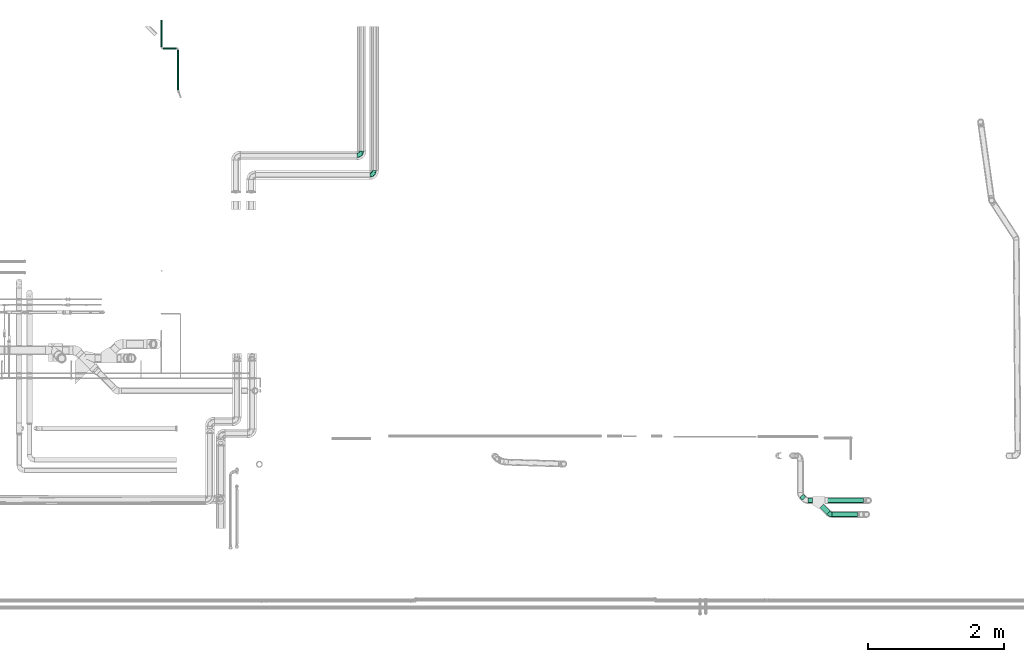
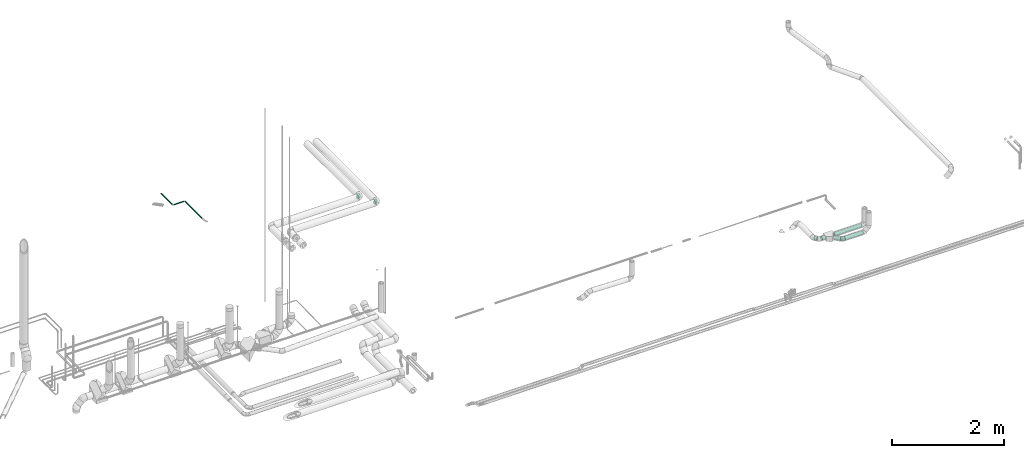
# One storey, part 72 of 156: 8 flow segments, 3 flow fittings.
"""IFC2X3 building model written with IfcOpenShell, lengths in millimetres."""

from ifc_helpers import new_model, entity, si_unit, converted_unit, derived_unit, direction, frame, origin_with_axes, origin_2d_with_axis, place, context, subcontext, project, spatial, hollow_circle, extrude, open_shell, surface_model, source, transform, mapped, type_object, element, save


model = new_model("IFC2X3")

# Units and contexts
model_context = context("Model", 3, precision=0.01, world=frame((0.0, 4.29681676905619e-09, 0.0)), true_north=direction((4.01073788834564e-13, 1.0)))
plan_context = context("Plan", 3, precision=0.01, world=frame((0.0, 4.29681676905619e-09, 0.0)), true_north=direction((4.01073788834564e-13, 1.0)))
body_context = subcontext(model_context, "Body", "Model", "MODEL_VIEW")
ifc_project = project(units=[converted_unit("PLANEANGLEUNIT", "DEGREE", entity("IfcPositiveLengthMeasure", 0.0174532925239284), si_unit("PLANEANGLEUNIT", "RADIAN"), dimensions=[0, 0, 0, 0, 0, 0, 0]), si_unit("AREAUNIT", "SQUARE_METRE"), si_unit("LENGTHUNIT", "METRE", prefix="MILLI"), si_unit("MASSUNIT", "GRAM", prefix="KILO"), si_unit("POWERUNIT", "WATT"), si_unit("PRESSUREUNIT", "PASCAL", prefix="KILO"), si_unit("FORCEUNIT", "NEWTON", prefix="KILO"), si_unit("ELECTRICVOLTAGEUNIT", "VOLT"), si_unit("ELECTRICCURRENTUNIT", "AMPERE"), si_unit("THERMODYNAMICTEMPERATUREUNIT", "DEGREE_CELSIUS"), si_unit("TIMEUNIT", "SECOND"), si_unit("VOLUMEUNIT", "CUBIC_METRE"), derived_unit("LINEARVELOCITYUNIT", [(si_unit("LENGTHUNIT", "METRE"), 1), (si_unit("TIMEUNIT", "SECOND"), -1)]), derived_unit("VOLUMETRICFLOWRATEUNIT", [(si_unit("VOLUMEUNIT", "CUBIC_METRE"), 1), (si_unit("TIMEUNIT", "SECOND"), -1)]), derived_unit("THERMALTRANSMITTANCEUNIT", [(si_unit("POWERUNIT", "WATT"), 1), (si_unit("THERMODYNAMICTEMPERATUREUNIT", "KELVIN"), -1), (si_unit("AREAUNIT", "SQUARE_METRE"), -1)]), derived_unit("SOUNDPRESSUREUNIT", [(si_unit("PRESSUREUNIT", "PASCAL"), 1)])], contexts=[model_context, plan_context])

# Site, building, storey
site_placement = place(None, frame((0.0, -4.29681676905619e-09, 0.0), z_axis=(0.0, 0.0, 1.0), x_axis=(1.0, 0.0, 0.0)))
site = spatial("IfcSite", under=ifc_project, at=site_placement, CompositionType="ELEMENT")
building_placement = place(site_placement, frame((0.0, 4.29681676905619e-09, 0.0), z_axis=(0.0, 0.0, 1.0), x_axis=(1.0, 0.0, 0.0)))
building = spatial("IfcBuilding", under=site, at=building_placement, Name="mc-building", CompositionType="ELEMENT")
storey_placement = place(building_placement, frame((0.0, 0.0, 205200.0), z_axis=(0.0, 0.0, 1.0), x_axis=(1.0, 0.0, 0.0)))
storey = spatial("IfcBuildingStorey", under=building, at=storey_placement, Name="Nivå D + 1,2 m", CompositionType="ELEMENT", Elevation=205200.0)

# Flow fittings
pipe_fitting_type = type_object("IfcPipeFittingType", Name="magi_pipe_elbow_short_001", PredefinedType="BEND")
shared_shape_1 = source(origin_with_axes(), body_context, "Body", "SurfaceModel", [
    surface_model("IfcShellBasedSurfaceModel", [(-65.0, 16.25, -28.14582), (-65.0, 8.41162, -31.39259), (-65.0, 0.0, -32.5), (-65.0, 22.98097, -22.98097), (-65.0, 31.39259, -8.41162), (-65.0, 28.14582, -16.25), (-65.0, -22.98097, -22.98097), (-65.0, -32.5, 0.0), (-65.0, -16.25, -28.14582), (-65.0, -8.41162, -31.39259), (-65.0, -31.39259, -8.41162), (-65.0, -28.14582, -16.25), (-65.0, 28.14582, 16.25), (-65.0, 31.39259, 8.41162), (-65.0, 16.25, 28.14582), (-65.0, -16.25, 28.14582), (-65.0, 22.98097, 22.98097), (-65.0, 8.41162, 31.39259), (-65.0, 0.0, 32.5), (-65.0, -28.14582, 16.25), (-65.0, -22.98097, 22.98097), (-65.0, -31.39259, 8.41162), (-65.0, -8.41162, 31.39259), (-65.0, 32.5, 0.0), (0.0, 65.0, -32.5), (-8.41162, 65.0, -31.39259), (-16.25, 65.0, -28.14582), (-22.98097, 65.0, -22.98097), (-28.14582, 65.0, -16.25), (-31.39259, 65.0, -8.41162), (22.98097, 65.0, -22.98097), (32.5, 65.0, 0.0), (8.41162, 65.0, -31.39259), (16.25, 65.0, -28.14582), (28.14582, 65.0, -16.25), (31.39259, 65.0, -8.41162), (22.98097, 65.0, 22.98097), (-31.39259, 65.0, 8.41162), (-16.25, 65.0, 28.14582), (-28.14582, 65.0, 16.25), (16.25, 65.0, 28.14582), (-22.98097, 65.0, 22.98097), (0.0, 65.0, 32.5), (-8.41162, 65.0, 31.39259), (31.39259, 65.0, 8.41162), (28.14582, 65.0, 16.25), (8.41162, 65.0, 31.39259), (-32.5, 65.0, 0.0), (-43.90702, -28.50357, 10.21429), (-47.66599, -25.24708, 18.24329), (-34.87084, -27.72801, 0.0), (-49.01599, -29.96838, 0.0), (-8.32282, -11.22418, 12.53244), (-2.26208, -8.68175, 6.83487), (1.87734, -1.87734, 13.46633), (-49.6496, -4.30536, 31.94417), (-45.51055, 4.98181, 32.4446), (11.10232, 7.93663, 12.20831), (19.84605, 26.44675, 16.1655), (7.61141, 11.79181, 20.74294), (-32.35679, -0.29166, 31.50073), (-47.54175, -12.2622, 29.22881), (-25.24141, -7.67713, 27.1649), (-41.69066, -18.5666, 24.14336), (-29.11978, -24.90981, 6.68628), (-21.28089, -20.80358, 0.0), (-11.79181, -7.61142, 20.74294), (-5.80543, 5.80543, 26.57151), (-31.76895, 51.87177, 14.12563), (-27.14947, 50.59881, 21.35142), (-12.13166, 56.06035, 30.44206), (-4.45426, 48.61541, 32.42017), (-50.09899, 12.74635, 30.7009), (-8.48341, 21.76765, 31.91167), (-16.14859, 5.96219, 30.34845), (-3.32017, 17.55886, 29.86711), (-56.22928, 19.68144, 26.48178), (-11.29526, 31.96047, 32.44169), (-24.07322, 24.07322, 31.71032), (-19.35215, 14.20223, 32.33259), (-51.38141, 34.61729, 7.14563), (-51.88792, 31.7637, 14.12347), (-40.35305, 40.35305, 12.14877), (-50.80511, 27.09273, 21.32871), (18.5666, 41.69066, 24.14336), (-33.7058, 43.08158, 18.39466), (12.2622, 47.54175, 29.22881), (25.24708, 47.66599, 18.24329), (28.50357, 43.90702, 10.21429), (-7.69094, -13.87916, 0.0), (-15.78148, -17.87706, 8.42054), (4.30536, 49.6496, 31.94417), (-35.71343, 13.92127, 31.91839), (-31.89105, 7.96389, 32.48613), (20.80358, 21.28089, 0.0), (24.90981, 29.11978, 6.68628), (17.87706, 15.78148, 8.42054), (29.96838, 49.01599, 0.0), (-34.55128, 22.0521, 30.06059), (-26.44675, -19.84605, 16.1655), (-23.56236, 42.00642, 27.31532), (-19.85518, 54.49722, 26.61661), (-34.21038, 52.42992, 6.97228), (-40.73172, 42.62744, 5.71978), (14.97296, 26.18012, 22.02699), (7.67713, 25.24141, 27.1649), (-36.85418, 48.75, 0.0), (-30.08671, 34.32049, 26.70528), (-44.75398, 22.06156, 27.36835), (-0.49673, 0.49673, 19.20125), (-18.54586, 33.64303, 31.24245), (-25.89232, 31.46486, 29.57131), (-14.05565, 44.0383, 30.95171), (-34.25835, 36.29564, 23.02122), (-41.74137, 34.9217, 18.12276), (0.29166, 32.35679, 31.50073), (-26.05885, -14.24556, 22.66105), (8.86268, 2.36037, 6.4802), (27.72801, 34.87084, 0.0), (13.87916, 7.69094, 0.0), (-48.75, 36.85418, 0.0), (3.09411, -3.09411, 0.0), (-47.92601, 27.98949, -21.64777), (-51.85818, 31.77338, -14.12745), (-26.55091, -8.20204, -27.26679), (-28.22117, -0.4054, -30.91131), (-13.05808, -0.54385, -26.63038), (-51.44999, 4.10942, -32.39422), (-47.41254, -29.09488, -10.59528), (-40.83541, -24.10132, -17.60314), (-31.01128, -24.37143, -10.90365), (-47.28426, 13.26677, -30.81881), (-35.80381, 7.68292, -32.49298), (-27.98949, 47.926, -21.64777), (-52.61518, 34.1021, -7.1115), (-20.39883, 51.02225, -26.88546), (-13.26677, 47.28425, -30.81881), (-41.3544, 41.3544, -7.75963), (19.41673, 47.01902, -24.53799), (11.21609, 41.15804, -28.90474), (12.81249, 54.88919, -29.57871), (-6.33191, -11.43232, -8.55907), (-6.42402, -8.42757, -14.80991), (3.49643, -2.75853, -8.57549), (-18.96438, 17.57366, -32.48155), (-30.80999, 19.23044, -31.53267), (-51.02225, 20.39883, -26.88546), (-54.71682, -25.87182, -18.8826), (-31.61812, 36.9194, -24.4791), (-30.03666, 30.03666, -28.53614), (-39.72338, 27.45383, -25.81957), (2.83418, -0.59734, -13.92945), (-47.01902, -19.41673, -24.53799), (24.10132, 40.83541, -17.60314), (29.09488, 47.41254, -10.59528), (24.37143, 31.01128, -10.90365), (-54.88919, -12.81249, -29.57871), (4.09785, 47.8829, -31.90577), (-20.54613, -15.81902, -17.72957), (-24.2662, -13.25756, -22.73526), (-11.78149, -8.03072, -20.32007), (-35.46896, -14.83968, -25.51841), (-41.15804, -11.21609, -28.90474), (-47.8829, -4.09785, -31.90577), (-24.35359, 39.98269, -27.53072), (-34.1021, 52.61518, -7.1115), (-4.10942, 51.44999, -32.39422), (-11.47328, 11.47328, -30.68873), (0.4054, 28.22117, -30.91131), (1.36819, 15.2666, -27.10351), (-31.77338, 51.85818, -14.12745), (-39.0335, 39.0335, -16.01919), (25.87182, 54.71682, -18.8826), (18.8348, 26.11149, -17.45424), (10.47668, 12.32102, -18.0266), (13.25756, 24.2662, -22.73526), (6.71713, 27.74562, -28.39194), (-7.68292, 35.80381, -32.49298), (-39.5129, 20.9158, -29.29247), (-19.37897, 31.62685, -31.37546), (-0.30809, 0.30809, -18.83153), (-15.05383, -18.17086, -5.59074), (16.66507, 16.14703, -12.10401), (18.17086, 15.05383, -5.59074), (3.82878, 9.90613, -22.79737), (-16.14703, -16.66507, -12.10401)], [open_shell([[[0, 1, 2]], [[3, 0, 2]], [[4, 5, 3]], [[6, 3, 2]], [[4, 3, 7]], [[8, 6, 9]], [[6, 2, 9]], [[10, 7, 11]], [[6, 11, 7]], [[6, 7, 3]], [[7, 12, 4]], [[4, 12, 13]], [[14, 12, 7]], [[15, 14, 7]], [[16, 12, 14]], [[17, 14, 18]], [[19, 20, 21]], [[21, 20, 7]], [[22, 18, 15]], [[15, 7, 20]], [[14, 15, 18]], [[4, 13, 23]], [[24, 25, 26]], [[24, 26, 27]], [[27, 28, 29]], [[24, 27, 30]], [[31, 27, 29]], [[32, 30, 33]], [[32, 24, 30]], [[34, 31, 35]], [[31, 34, 30]], [[27, 31, 30]], [[29, 36, 31]], [[36, 29, 37]], [[38, 37, 39]], [[40, 37, 38]], [[38, 39, 41]], [[42, 38, 43]], [[44, 36, 45]], [[31, 36, 44]], [[40, 42, 46]], [[40, 36, 37]], [[42, 40, 38]], [[29, 47, 37]], [[48, 49, 19]], [[50, 48, 51]], [[52, 53, 54]], [[21, 48, 19]], [[21, 51, 48]], [[18, 55, 56]], [[19, 49, 20]], [[57, 58, 59]], [[60, 61, 62]], [[63, 15, 20]], [[63, 61, 15]], [[64, 50, 65]], [[62, 66, 67]], [[39, 68, 69]], [[43, 70, 71]], [[17, 72, 14]], [[73, 74, 75]], [[14, 76, 16]], [[22, 55, 18]], [[77, 78, 79]], [[80, 81, 82]], [[12, 83, 81]], [[84, 36, 40]], [[23, 13, 80]], [[13, 12, 81]], [[68, 85, 69]], [[83, 12, 16]], [[18, 56, 17]], [[40, 86, 84]], [[16, 76, 83]], [[87, 58, 88]], [[39, 37, 68]], [[89, 90, 65]], [[42, 91, 46]], [[65, 90, 64]], [[42, 43, 71]], [[92, 93, 79]], [[88, 44, 45]], [[45, 36, 87]], [[87, 88, 45]], [[94, 95, 96]], [[88, 97, 44]], [[98, 72, 92]], [[49, 99, 63]], [[69, 100, 101]], [[82, 102, 103]], [[104, 105, 59]], [[106, 102, 47]], [[98, 107, 108]], [[102, 82, 68]], [[86, 40, 46]], [[69, 41, 39]], [[109, 54, 57]], [[110, 100, 111]], [[15, 61, 22]], [[101, 38, 41]], [[70, 43, 38]], [[112, 77, 71]], [[84, 86, 105]], [[96, 95, 58]], [[100, 69, 113]], [[72, 17, 56]], [[108, 113, 83]], [[81, 114, 82]], [[112, 110, 77]], [[91, 71, 115]], [[62, 61, 63]], [[55, 61, 60]], [[116, 99, 66]], [[74, 62, 67]], [[91, 86, 46]], [[105, 86, 115]], [[75, 105, 115]], [[109, 67, 66]], [[59, 105, 67]], [[48, 64, 99]], [[99, 49, 48]], [[63, 20, 49]], [[36, 84, 87]], [[58, 87, 84]], [[92, 72, 56]], [[76, 72, 108]], [[102, 68, 37]], [[82, 114, 85]], [[98, 111, 107]], [[112, 70, 101]], [[114, 83, 113]], [[82, 103, 80]], [[92, 79, 78]], [[115, 71, 77]], [[74, 79, 60]], [[77, 79, 73]], [[71, 91, 42]], [[86, 91, 115]], [[61, 55, 22]], [[56, 55, 60]], [[57, 54, 117]], [[104, 59, 58]], [[116, 66, 62]], [[52, 99, 90]], [[21, 7, 51]], [[97, 88, 118]], [[97, 31, 44]], [[53, 90, 89]], [[90, 53, 52]], [[94, 96, 119]], [[88, 95, 118]], [[117, 54, 53]], [[92, 56, 93]], [[98, 92, 78]], [[111, 98, 78]], [[72, 98, 108]], [[110, 111, 78]], [[107, 111, 100]], [[47, 102, 37]], [[102, 106, 103]], [[106, 120, 103]], [[103, 120, 80]], [[23, 80, 120]], [[13, 81, 80]], [[56, 60, 93]], [[60, 79, 93]], [[117, 121, 119]], [[121, 117, 53]], [[53, 89, 121]], [[119, 96, 117]], [[117, 96, 57]], [[77, 110, 78]], [[100, 110, 112]], [[83, 114, 81]], [[85, 114, 113]], [[69, 85, 113]], [[82, 85, 68]], [[109, 52, 54]], [[99, 52, 66]], [[69, 101, 41]], [[112, 101, 100]], [[100, 113, 107]], [[108, 107, 113]], [[62, 74, 60]], [[75, 74, 67]], [[105, 75, 67]], [[73, 75, 115]], [[77, 73, 115]], [[74, 73, 79]], [[99, 64, 90]], [[50, 64, 48]], [[118, 95, 94]], [[58, 95, 88]], [[58, 57, 96]], [[109, 57, 59]], [[72, 76, 14]], [[83, 76, 108]], [[101, 70, 38]], [[71, 70, 112]], [[58, 84, 104]], [[105, 104, 84]], [[67, 109, 59]], [[52, 109, 66]], [[62, 63, 116]], [[99, 116, 63]], [[122, 5, 123]], [[124, 125, 126]], [[2, 1, 127]], [[128, 129, 130]], [[127, 131, 132]], [[28, 27, 133]], [[120, 134, 23]], [[135, 26, 136]], [[123, 134, 137]], [[138, 139, 140]], [[122, 3, 5]], [[141, 142, 143]], [[144, 132, 145]], [[131, 0, 146]], [[128, 11, 147]], [[148, 149, 150]], [[128, 51, 10]], [[142, 151, 143]], [[152, 6, 8]], [[153, 154, 155]], [[156, 152, 8]], [[32, 157, 24]], [[158, 159, 160]], [[147, 11, 6]], [[129, 152, 161]], [[156, 8, 9]], [[162, 163, 125]], [[154, 34, 35]], [[120, 106, 137]], [[149, 148, 164]], [[47, 29, 165]], [[163, 9, 2]], [[5, 4, 123]], [[25, 166, 136]], [[167, 168, 169]], [[170, 133, 171]], [[25, 24, 166]], [[33, 30, 138]], [[157, 32, 140]], [[29, 28, 170]], [[30, 34, 172]], [[26, 135, 27]], [[132, 131, 145]], [[32, 33, 140]], [[173, 174, 175]], [[169, 168, 176]], [[25, 136, 26]], [[175, 138, 173]], [[168, 177, 157]], [[163, 162, 156]], [[153, 172, 154]], [[11, 128, 10]], [[154, 97, 118]], [[131, 178, 145]], [[0, 3, 146]], [[175, 139, 138]], [[155, 118, 94]], [[131, 1, 0]], [[146, 178, 131]], [[170, 137, 165]], [[149, 179, 145]], [[171, 133, 148]], [[160, 180, 142]], [[65, 181, 89]], [[170, 165, 29]], [[137, 171, 123]], [[172, 138, 30]], [[138, 153, 173]], [[168, 157, 139]], [[166, 157, 177]], [[176, 175, 169]], [[168, 167, 144]], [[154, 35, 97]], [[155, 182, 173]], [[162, 124, 161]], [[147, 152, 129]], [[127, 163, 2]], [[132, 144, 125]], [[132, 125, 163]], [[125, 167, 126]], [[129, 158, 130]], [[35, 31, 97]], [[143, 182, 183]], [[169, 126, 167]], [[3, 122, 146]], [[178, 150, 149]], [[136, 179, 164]], [[133, 27, 135]], [[123, 4, 134]], [[122, 123, 171]], [[133, 170, 28]], [[137, 170, 171]], [[184, 175, 174]], [[180, 160, 126]], [[126, 169, 184]], [[126, 159, 124]], [[51, 128, 50]], [[51, 7, 10]], [[131, 127, 1]], [[163, 127, 132]], [[157, 166, 24]], [[136, 166, 177]], [[164, 179, 149]], [[144, 167, 125]], [[179, 144, 145]], [[168, 144, 177]], [[136, 177, 179]], [[144, 179, 177]], [[141, 121, 89]], [[89, 181, 141]], [[154, 118, 155]], [[183, 155, 94]], [[143, 183, 119]], [[119, 183, 94]], [[155, 183, 182]], [[181, 130, 185]], [[50, 128, 130]], [[130, 181, 65]], [[50, 130, 65]], [[141, 181, 185]], [[142, 141, 185]], [[143, 121, 141]], [[158, 160, 142]], [[142, 180, 151]], [[158, 142, 185]], [[126, 160, 159]], [[130, 158, 185]], [[129, 159, 158]], [[23, 134, 4]], [[120, 137, 134]], [[137, 106, 165]], [[47, 165, 106]], [[174, 151, 180]], [[182, 143, 151]], [[150, 146, 122]], [[149, 145, 178]], [[146, 150, 178]], [[122, 171, 148]], [[148, 150, 122]], [[164, 133, 135]], [[133, 164, 148]], [[164, 135, 136]], [[138, 140, 33]], [[157, 140, 139]], [[154, 172, 34]], [[138, 172, 153]], [[163, 156, 9]], [[152, 156, 162]], [[152, 147, 6]], [[128, 147, 129]], [[155, 173, 153]], [[174, 173, 182]], [[151, 174, 182]], [[174, 180, 184]], [[126, 184, 180]], [[175, 184, 169]], [[168, 139, 176]], [[175, 176, 139]], [[161, 124, 159]], [[125, 124, 162]], [[129, 161, 159]], [[162, 161, 152]], [[143, 119, 121]]])]),
])
for number, where, z_axis, x_axis, name in (
    (1, (331935.29993, 465599.02228, 4232.15388999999), (0.0, 0.0, 1.0), (1.0, 0.0, 0.0), "magi_pipe_elbow_short_001"),
    (2, (332120.29993, 465309.02229, 4224.29453000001), (0.0, 0.0, 1.0), (1.0, 0.0, 0.0), "magi_pipe_elbow_short_001"),
):
    element("IfcFlowFitting", number, at=place(storey_placement, frame(where, z_axis=z_axis, x_axis=x_axis)), inside=storey, type_object=pipe_fitting_type, Name=name, context=body_context, shape_type="MappedRepresentation", body=[
        mapped(shared_shape_1, transform((0.0, 0.0, 0.0), scale=1.0)),
    ])
shared_shape_2 = source(origin_with_axes(), body_context, "Body", "SurfaceModel", [
    surface_model("IfcShellBasedSurfaceModel", [(-31.06602, 18.75, -32.47595), (-31.06602, 9.70571, -36.22222), (-31.06602, 0.0, -37.5), (-31.06602, 26.5165, -26.5165), (-31.06602, 36.22222, -9.70571), (-31.06602, 32.47595, -18.75), (-31.06602, -26.5165, -26.5165), (-31.06602, -32.47595, -18.75), (-31.06602, -18.75, -32.47595), (-31.06602, -9.70571, -36.22222), (-31.06602, -36.22222, -9.70571), (-31.06602, -37.5, 0.0), (-31.06602, -36.22222, 9.70571), (-31.06602, 36.22222, 9.70571), (-31.06602, 37.5, 0.0), (-31.06602, 26.5165, 26.5165), (-31.06602, 32.47595, 18.75), (-31.06602, 9.70571, 36.22222), (-31.06602, 18.75, 32.47595), (-31.06602, 0.0, 37.5), (-31.06602, -32.47595, 18.75), (-31.06602, -26.5165, 26.5165), (-31.06602, -18.75, 32.47595), (-31.06602, -9.70571, 36.22222), (21.96699, 21.96699, -37.5), (15.10402, 28.82997, -36.22222), (8.70874, 35.22524, -32.47595), (3.21699, 40.71699, -26.5165), (-0.99697, 44.93096, -18.75), (-3.64599, 47.57997, -9.70571), (40.71699, 3.21699, -26.5165), (47.57997, -3.64599, 9.70571), (35.22524, 8.70874, -32.47595), (28.82997, 15.10402, -36.22222), (44.93096, -0.99697, -18.75), (47.57997, -3.64599, -9.70571), (48.4835, -4.54951, 0.0), (-4.54951, 48.4835, 0.0), (3.21699, 40.71699, 26.5165), (-3.64599, 47.57997, 9.70571), (-0.99697, 44.93096, 18.75), (8.70874, 35.22524, 32.47595), (15.10402, 28.82997, 36.22222), (21.96699, 21.96699, 37.5), (40.71699, 3.21699, 26.5165), (44.93096, -0.99697, 18.75), (35.22524, 8.70874, 32.47595), (28.82997, 15.10402, 36.22222), (9.55102, -23.0582, 20.89761), (-8.29629, -21.19414, 28.93647), (-12.1092, -28.6804, 21.95769), (-12.52947, -35.05962, 0.0), (-1.94887, -33.66666, 0.0), (-8.00413, -34.54807, 6.40349), (28.8426, -11.7176, 21.95769), (-14.85891, -13.75094, 34.27307), (3.85041, -9.29571, 33.80058), (1.11309, 22.54421, 35.00091), (6.77913, 17.75082, 36.95457), (-11.19207, -3.61059, 37.00319), (-3.56676, 8.61092, 37.36822), (-18.78922, 5.19642, 37.27243), (-10.65195, 25.71608, 30.6152), (-16.5374, 31.44928, 23.66502), (20.23022, 0.78345, 34.27307), (-14.40868, 15.60478, 35.05721), (14.47194, -24.54326, 14.77903), (-6.72388, -32.44318, 13.02279), (11.6428, -28.1082, 8.15064), (-15.44831, 37.29553, 15.40662), (30.08895, -18.76939, 6.40349), (33.65056, -15.93122, 0.0), (-15.02041, 40.18231, 7.87919), (27.69529, -18.1863, 13.02279), (10.46707, 5.36091, 37.00319), (20.85288, -9.12015, 28.93647), (-16.71539, 40.35452, 0.0), (6.2943, -15.19578, 29.90417), (11.61755, -28.04726, 0.0), (25.18398, -22.42786, 0.0), (-11.19207, -3.61059, -37.00319), (-8.00414, -34.54807, -6.40349), (11.6428, -28.1082, -8.15064), (10.46707, 5.36091, -37.00319), (-16.72824, 15.15409, -35.00091), (-17.34529, 7.75816, -36.95457), (-10.5443, 33.9317, -23.66502), (20.85288, -9.12015, -28.93647), (-15.44832, 37.29553, -15.40662), (27.69529, -18.1863, -13.02279), (-17.79215, 39.03422, -7.87919), (-0.84577, 21.22272, -35.05721), (-6.72388, -32.44318, -13.02279), (-10.65195, 25.71608, -30.6152), (-12.1092, -28.6804, -21.95769), (-8.29629, -21.19414, -28.93646), (6.2943, -15.19578, -29.90417), (9.55102, -23.0582, -20.89761), (-14.85891, -13.75094, -34.27307), (20.23022, 0.78345, -34.27307), (3.85041, -9.29571, -33.80058), (30.08895, -18.76939, -6.40349), (9.61156, 16.96041, -37.27243), (7.1215, -27.58792, -14.77903), (28.8426, -11.7176, -21.95769), (-3.56676, 8.61092, -37.36822)], [open_shell([[[0, 1, 2]], [[3, 0, 2]], [[4, 5, 3]], [[6, 3, 2]], [[4, 3, 7]], [[8, 6, 9]], [[6, 2, 9]], [[10, 11, 7]], [[3, 6, 7]], [[7, 11, 12]], [[12, 4, 7]], [[13, 14, 15]], [[16, 13, 15]], [[17, 18, 15]], [[14, 17, 15]], [[19, 17, 14]], [[20, 21, 12]], [[22, 12, 21]], [[23, 19, 22]], [[12, 22, 19]], [[19, 14, 12]], [[4, 12, 14]], [[24, 25, 26]], [[24, 26, 27]], [[27, 28, 29]], [[24, 27, 30]], [[27, 31, 30]], [[24, 32, 33]], [[24, 30, 32]], [[30, 31, 34]], [[31, 35, 34]], [[35, 31, 36]], [[29, 37, 27]], [[38, 37, 39]], [[38, 39, 40]], [[38, 41, 42]], [[38, 42, 37]], [[37, 42, 43]], [[31, 44, 45]], [[44, 31, 46]], [[46, 43, 47]], [[43, 46, 31]], [[31, 37, 43]], [[37, 31, 27]], [[48, 49, 50]], [[51, 52, 53]], [[22, 21, 49]], [[45, 44, 54]], [[55, 49, 56]], [[50, 49, 21]], [[42, 57, 58]], [[23, 22, 55]], [[59, 60, 61]], [[19, 23, 59]], [[15, 62, 63]], [[46, 47, 64]], [[61, 17, 19]], [[18, 65, 62]], [[12, 51, 53]], [[41, 38, 62]], [[66, 67, 68]], [[62, 15, 18]], [[21, 20, 50]], [[16, 63, 69]], [[13, 16, 69]], [[31, 70, 71]], [[72, 14, 13]], [[73, 66, 68]], [[67, 53, 68]], [[18, 17, 65]], [[43, 58, 74]], [[44, 46, 75]], [[40, 39, 69]], [[74, 47, 43]], [[48, 50, 67]], [[44, 75, 54]], [[60, 58, 57]], [[75, 46, 64]], [[20, 67, 50]], [[70, 31, 73]], [[48, 54, 75]], [[61, 65, 17]], [[48, 66, 54]], [[13, 69, 72]], [[20, 12, 67]], [[76, 72, 37]], [[49, 77, 56]], [[39, 72, 69]], [[56, 74, 59]], [[40, 69, 63]], [[56, 64, 74]], [[40, 63, 38]], [[60, 59, 74]], [[42, 41, 57]], [[57, 62, 65]], [[55, 59, 23]], [[16, 15, 63]], [[73, 31, 45]], [[73, 45, 54]], [[77, 48, 75]], [[38, 63, 62]], [[62, 57, 41]], [[60, 57, 65]], [[49, 55, 22]], [[59, 55, 56]], [[74, 64, 47]], [[75, 64, 56]], [[12, 11, 51]], [[68, 52, 78]], [[12, 53, 67]], [[52, 68, 53]], [[70, 68, 79]], [[71, 70, 79]], [[71, 36, 31]], [[68, 70, 73]], [[74, 58, 60]], [[43, 42, 58]], [[59, 61, 19]], [[65, 61, 60]], [[48, 77, 49]], [[75, 56, 77]], [[37, 72, 39]], [[72, 76, 14]], [[54, 66, 73]], [[67, 66, 48]], [[79, 68, 78]], [[9, 2, 80]], [[52, 81, 82]], [[24, 33, 83]], [[84, 85, 1]], [[5, 86, 3]], [[32, 30, 87]], [[88, 86, 5]], [[34, 35, 89]], [[4, 90, 88]], [[26, 25, 91]], [[10, 81, 51]], [[0, 84, 1]], [[81, 10, 92]], [[27, 93, 86]], [[92, 7, 94]], [[94, 6, 95]], [[6, 8, 95]], [[96, 97, 95]], [[10, 7, 92]], [[6, 94, 7]], [[98, 8, 9]], [[99, 83, 33]], [[29, 28, 88]], [[100, 98, 80]], [[14, 76, 90]], [[97, 94, 95]], [[37, 29, 90]], [[100, 80, 83]], [[27, 26, 93]], [[88, 5, 4]], [[28, 86, 88]], [[98, 95, 8]], [[91, 93, 26]], [[85, 80, 2]], [[93, 91, 84]], [[3, 93, 0]], [[35, 71, 101]], [[102, 25, 24]], [[99, 33, 32]], [[103, 89, 82]], [[30, 104, 87]], [[100, 99, 87]], [[30, 34, 104]], [[105, 102, 83]], [[104, 97, 87]], [[105, 83, 80]], [[101, 71, 79]], [[102, 91, 25]], [[105, 85, 84]], [[81, 92, 82]], [[97, 103, 94]], [[87, 96, 100]], [[34, 89, 104]], [[29, 88, 90]], [[97, 104, 89]], [[28, 27, 86]], [[3, 86, 93]], [[93, 84, 0]], [[105, 84, 91]], [[80, 98, 9]], [[95, 98, 100]], [[87, 99, 32]], [[83, 99, 100]], [[51, 81, 52]], [[51, 11, 10]], [[103, 82, 92]], [[101, 82, 89]], [[82, 79, 78]], [[35, 36, 71]], [[82, 101, 79]], [[35, 101, 89]], [[80, 85, 105]], [[2, 1, 85]], [[83, 102, 24]], [[91, 102, 105]], [[97, 96, 87]], [[95, 100, 96]], [[14, 90, 4]], [[90, 76, 37]], [[94, 103, 92]], [[89, 103, 97]], [[52, 82, 78]]])]),
])
flow_fitting_placement = place(storey_placement, frame((338843.76506, 460304.21708, 4098.23676), z_axis=(0.0, 0.0, 1.0), x_axis=(0.707106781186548, -0.707106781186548, 0.0)))
element("IfcFlowFitting", 3, at=flow_fitting_placement, inside=storey, type_object=pipe_fitting_type, Name="magi_pipe_elbow_short_001", context=body_context, shape_type="MappedRepresentation", body=[
    mapped(shared_shape_2, transform((0.0, 0.0, 0.0), scale=1.0)),
])

# Flow segments
pipe_segment_type_1 = type_object("IfcPipeSegmentType", Name="MA", PredefinedType="RIGIDSEGMENT")
shared_shape_3 = source(origin_with_axes(), body_context, "Body", "SweptSolid", [
    extrude(hollow_circle(Radius=37.5, WallThickness=2.0, at=origin_2d_with_axis()), frame((0.0, 0.0, 0.0), z_axis=(1.0, 0.0, 0.0), x_axis=(0.0, 1.0, 0.0)), (0.0, 0.0, 1.0), 54.8),
])
flow_segment_1_placement = place(storey_placement, frame((338424.79776, 460578.07805, 4098.75644), z_axis=(0.0, 0.0, 1.0), x_axis=(0.642788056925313, -0.766044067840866, 0.0)))
element("IfcFlowSegment", 4, at=flow_segment_1_placement, inside=storey, type_object=pipe_segment_type_1, Name="MA", context=body_context, shape_type="MappedRepresentation", body=[
    mapped(shared_shape_3, transform((0.0, 0.0, 0.0), scale=1.0)),
])
shared_shape_4 = source(origin_with_axes(), body_context, "Body", "SweptSolid", [
    extrude(hollow_circle(Radius=37.5, WallThickness=2.0, at=origin_2d_with_axis()), frame((0.0, 0.0, 0.0), z_axis=(1.0, 0.0, 0.0), x_axis=(0.0, 1.0, 0.0)), (0.0, 0.0, 1.0), 565.0),
])
flow_segment_2_placement = place(storey_placement, frame((339336.91478, 460509.27805, 4098.75644), z_axis=(0.0, 0.0, 1.0), x_axis=(-1.0, 0.0, 0.0)))
element("IfcFlowSegment", 5, at=flow_segment_2_placement, inside=storey, type_object=pipe_segment_type_1, Name="MA", context=body_context, shape_type="MappedRepresentation", body=[
    mapped(shared_shape_4, transform((0.0, 0.0, 0.0), scale=1.0)),
])
shared_shape_5 = source(origin_with_axes(), body_context, "Body", "SweptSolid", [
    extrude(hollow_circle(Radius=37.5, WallThickness=2.0, at=origin_2d_with_axis()), frame((0.0, 0.0, 0.0), z_axis=(1.0, 0.0, 0.0), x_axis=(0.0, 1.0, 0.0)), (0.0, 0.0, 1.0), 143.4),
])
flow_segment_3_placement = place(storey_placement, frame((338720.39827, 460427.58387, 4098.23676), z_axis=(0.0, 0.0, 1.0), x_axis=(0.707106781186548, -0.707106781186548, 0.0)))
element("IfcFlowSegment", 6, at=flow_segment_3_placement, inside=storey, type_object=pipe_segment_type_1, Name="MA", context=body_context, shape_type="MappedRepresentation", body=[
    mapped(shared_shape_5, transform((0.0, 0.0, 0.0), scale=1.0)),
])
shared_shape_6 = source(origin_with_axes(), body_context, "Body", "SweptSolid", [
    extrude(hollow_circle(Radius=37.5, WallThickness=2.0, at=origin_2d_with_axis()), frame((0.0, 0.0, 0.0), z_axis=(1.0, 0.0, 0.0), x_axis=(0.0, 1.0, 0.0)), (0.0, 0.0, 1.0), 69.7),
])
flow_segment_4_placement = place(storey_placement, frame((338517.50089, 460509.27805, 4098.75644), z_axis=(0.0, 0.0, 1.0), x_axis=(1.0, 0.0, 0.0)))
element("IfcFlowSegment", 7, at=flow_segment_4_placement, inside=storey, type_object=pipe_segment_type_1, Name="MA", context=body_context, shape_type="MappedRepresentation", body=[
    mapped(shared_shape_6, transform((0.0, 0.0, 0.0), scale=1.0)),
])
shared_shape_7 = source(origin_with_axes(), body_context, "Body", "SweptSolid", [
    extrude(hollow_circle(Radius=37.5, WallThickness=2.0, at=origin_2d_with_axis()), frame((0.0, 0.0, 0.0), z_axis=(1.0, 0.0, 0.0), x_axis=(0.0, 1.0, 0.0)), (0.0, 0.0, 1.0), 375.2),
])
flow_segment_5_placement = place(storey_placement, frame((338874.83108, 460304.21708, 4098.23676), z_axis=(0.0, 0.0, 1.0), x_axis=(1.0, 0.0, 0.0)))
element("IfcFlowSegment", 8, at=flow_segment_5_placement, inside=storey, type_object=pipe_segment_type_1, Name="MA", context=body_context, shape_type="MappedRepresentation", body=[
    mapped(shared_shape_7, transform((0.0, 0.0, 0.0), scale=1.0)),
])
pipe_segment_type_2 = type_object("IfcPipeSegmentType", Name="Stålrør normaltykke", PredefinedType="RIGIDSEGMENT")
shared_shape_8 = source(origin_with_axes(), body_context, "Body", "SweptSolid", [
    extrude(hollow_circle(Radius=13.3, WallThickness=2.0, at=origin_2d_with_axis()), frame((0.0, 0.0, 0.0), z_axis=(1.0, 0.0, 0.0), x_axis=(0.0, 1.0, 0.0)), (0.0, 0.0, 1.0), 398.6),
])
flow_segment_6_placement = place(storey_placement, frame((328982.77865, 467198.13689, 4122.79999), z_axis=(0.0, 0.0, 1.0), x_axis=(0.0, 1.0, 0.0)))
element("IfcFlowSegment", 9, at=flow_segment_6_placement, inside=storey, type_object=pipe_segment_type_2, Name="Stålrør normaltykke", context=body_context, shape_type="MappedRepresentation", body=[
    mapped(shared_shape_8, transform((0.0, 0.0, 0.0), scale=1.0)),
])
shared_shape_9 = source(origin_with_axes(), body_context, "Body", "SweptSolid", [
    extrude(hollow_circle(Radius=13.3, WallThickness=2.0, at=origin_2d_with_axis()), frame((0.0, 0.0, 0.0), z_axis=(1.0, 0.0, 0.0), x_axis=(0.0, 1.0, 0.0)), (0.0, 0.0, 1.0), 205.0),
])
flow_segment_7_placement = place(storey_placement, frame((329002.77865, 467178.13689, 4122.79999), z_axis=(0.0, 0.0, 1.0), x_axis=(1.0, 0.0, 0.0)))
element("IfcFlowSegment", 10, at=flow_segment_7_placement, inside=storey, type_object=pipe_segment_type_2, Name="Stålrør normaltykke", context=body_context, shape_type="MappedRepresentation", body=[
    mapped(shared_shape_9, transform((0.0, 0.0, 0.0), scale=1.0)),
])
shared_shape_10 = source(origin_with_axes(), body_context, "Body", "SweptSolid", [
    extrude(hollow_circle(Radius=13.3, WallThickness=2.0, at=origin_2d_with_axis()), frame((0.0, 0.0, 0.0), z_axis=(1.0, 0.0, 0.0), x_axis=(0.0, 1.0, 0.0)), (0.0, 0.0, 1.0), 595.1),
])
flow_segment_8_placement = place(storey_placement, frame((329227.77865, 467158.13689, 4122.79999), z_axis=(0.0, 0.0, 1.0), x_axis=(0.0, -1.0, 0.0)))
element("IfcFlowSegment", 11, at=flow_segment_8_placement, inside=storey, type_object=pipe_segment_type_2, Name="Stålrør normaltykke", context=body_context, shape_type="MappedRepresentation", body=[
    mapped(shared_shape_10, transform((0.0, 0.0, 0.0), scale=1.0)),
])

save(model, "model.ifc")
